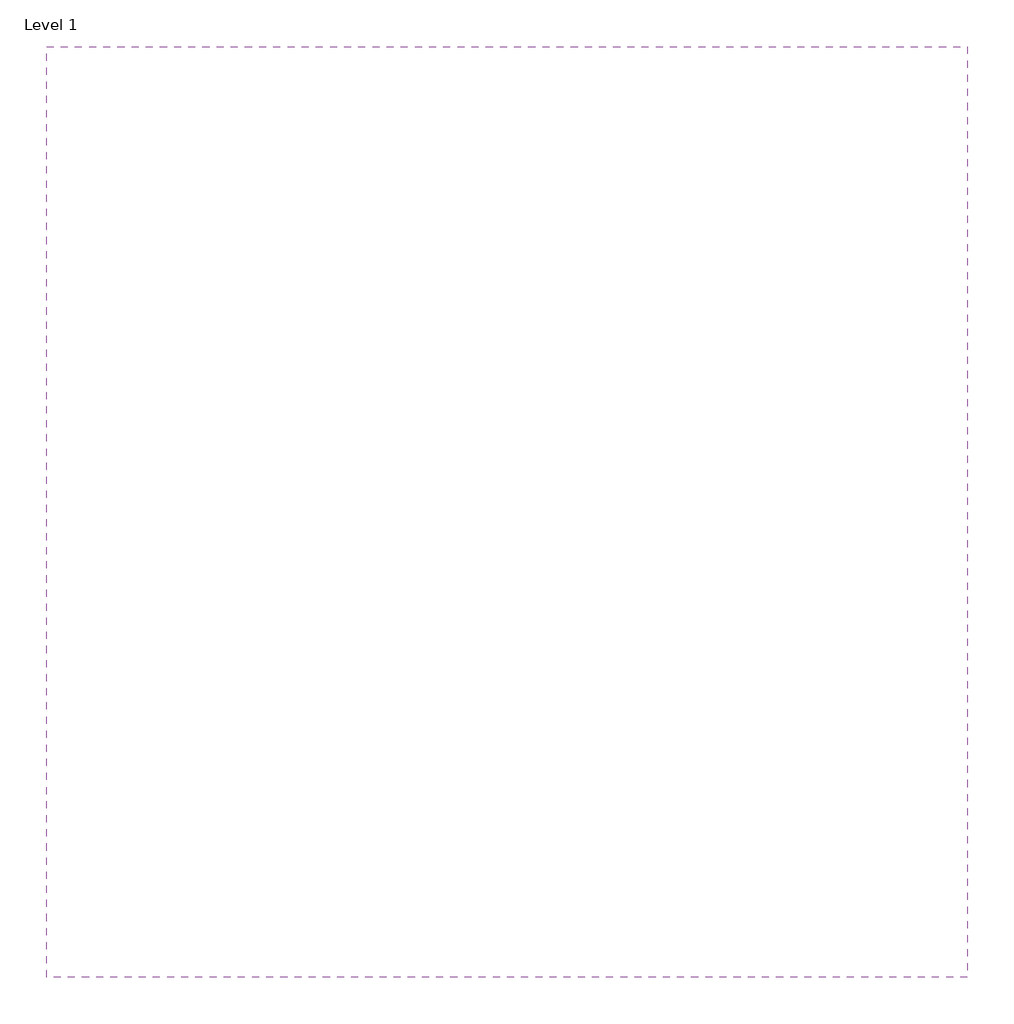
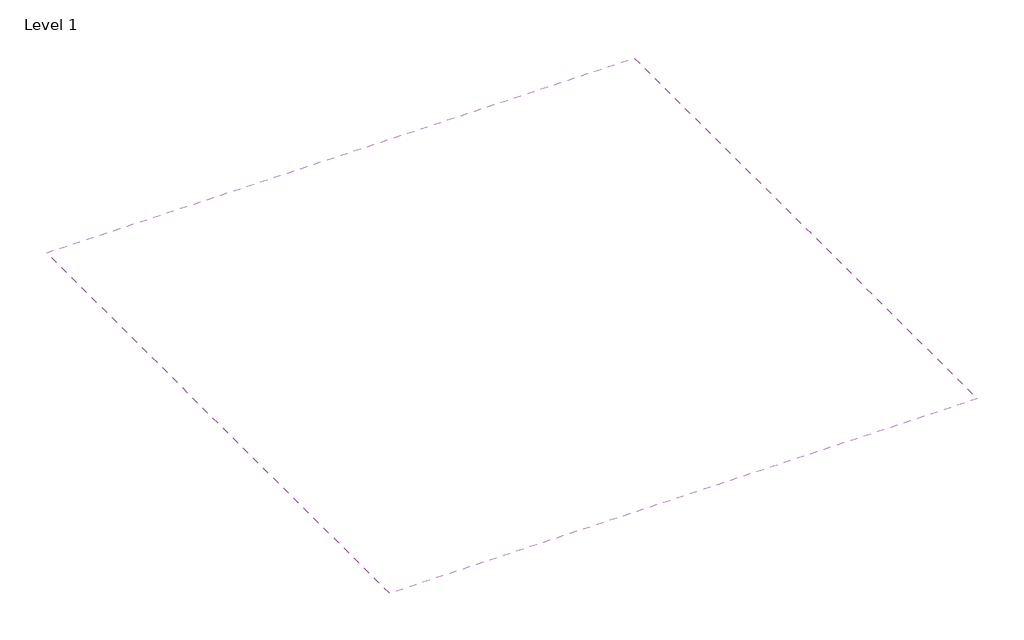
# One storey: 1 covering.
"""IFC4 building model written with IfcOpenShell, lengths in millimetres."""

from ifc_helpers import new_model, si_unit, frame, origin, place, context, project, spatial, polyline, outline, extrude, element, save

model = new_model("IFC4")

# Units and contexts
model_context = context("Model", 3, world=origin())
ifc_project = project(units=[si_unit("LENGTHUNIT", "METRE", prefix="MILLI")], contexts=[model_context])

# Site, building, storey
site = spatial("IfcSite", under=ifc_project)
building = spatial("IfcBuilding", under=site)
storey = spatial("IfcBuildingStorey", under=building, Name="Level 1", Elevation=0.0)

# Covering
placement = place(None, origin())
element("IfcCovering", 1, ObjectType="NBS_ArmstrongCeilingsLtd_UnitModularSuspendedCeilingSystem_DunedBMicroLook-Prelude15Exposed_600x600x19mm_GB", at=placement, inside=storey, context=model_context, shape_type="SweptSolid", body=[
    extrude(outline(polyline([(2374.2, 2600.0), (2374.2, 100.0), (-100.0, 100.0), (-100.0, 2600.0), (2374.2, 2600.0)])), frame((0.0, 0.0, 2600.0), z_axis=(0.0, 0.0, 1.0), x_axis=(1.0, 0.0, 0.0)), (0.0, 0.0, 1.0), 51.0),
])

save(model, "model.ifc")
